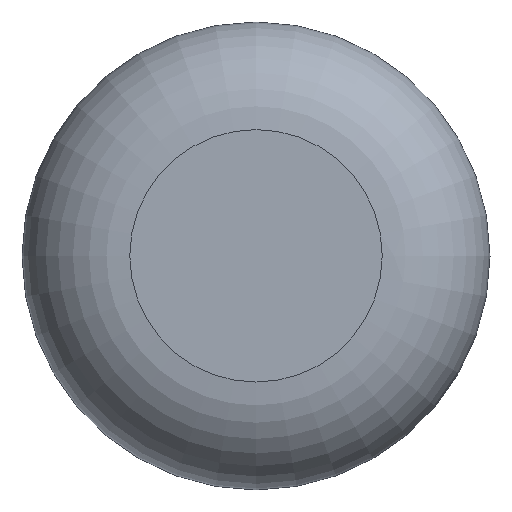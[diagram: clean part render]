
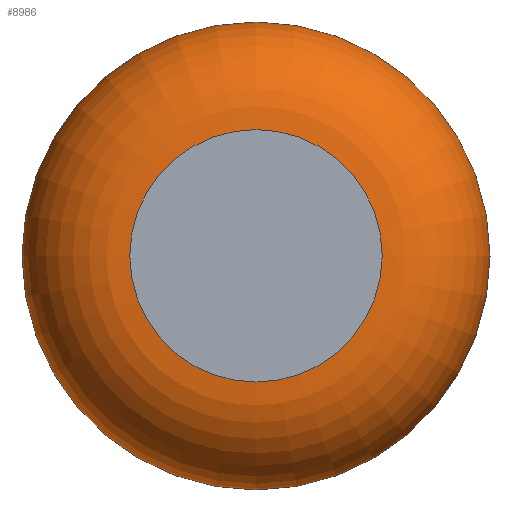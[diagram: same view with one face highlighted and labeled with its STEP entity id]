
A CAD part, top view. The second image highlights one B-rep face of the part: STEP entity #8986.
In plain terms, the highlighted toroidal (fillet/blend) face has major radius 8.092 mm and minor radius 6.908 mm.
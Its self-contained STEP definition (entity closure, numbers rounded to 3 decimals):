
#57=TOROIDAL_SURFACE('',#9426,8.092,6.908);
#3285=ORIENTED_EDGE('',*,*,#4393,.F.);
#3286=ORIENTED_EDGE('',*,*,#4392,.T.);
#4392=EDGE_CURVE('',#5080,#5080,#5278,.T.);
#4393=EDGE_CURVE('',#5081,#5081,#5279,.T.);
#5080=VERTEX_POINT('',#36884);
#5081=VERTEX_POINT('',#36887);
#5278=CIRCLE('',#9425,15.);
#5279=CIRCLE('',#9427,8.092);
#5631=EDGE_LOOP('',(#3285));
#5632=EDGE_LOOP('',(#3286));
#6019=FACE_BOUND('',#5631,.T.);
#6020=FACE_BOUND('',#5632,.T.);
#8986=ADVANCED_FACE('',(#6019,#6020),#57,.T.);
#9425=AXIS2_PLACEMENT_3D('',#36883,#10685,#10686);
#9426=AXIS2_PLACEMENT_3D('',#36885,#10687,#10688);
#9427=AXIS2_PLACEMENT_3D('',#36886,#10689,#10690);
#10685=DIRECTION('',(0.,0.,1.));
#10686=DIRECTION('',(1.,0.,0.));
#10687=DIRECTION('',(0.,0.,1.));
#10688=DIRECTION('',(1.,0.,0.));
#10689=DIRECTION('',(0.,0.,1.));
#10690=DIRECTION('',(1.,0.,0.));
#36883=CARTESIAN_POINT('',(0.,0.,29.592));
#36884=CARTESIAN_POINT('',(15.,0.,29.592));
#36885=CARTESIAN_POINT('',(0.,0.,29.592));
#36886=CARTESIAN_POINT('',(0.,0.,36.5));
#36887=CARTESIAN_POINT('',(8.092,0.,36.5));
